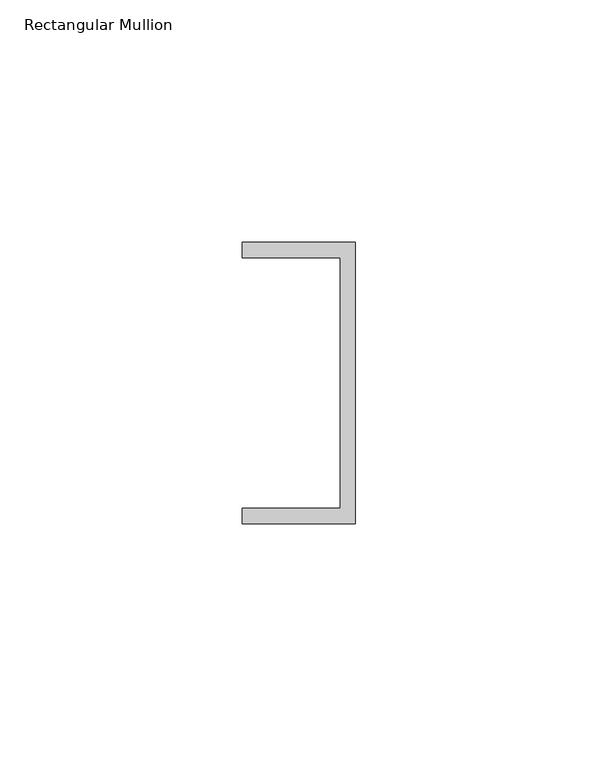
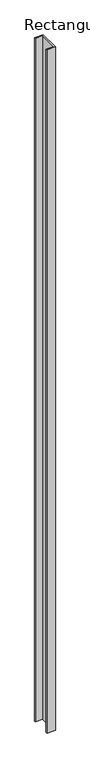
"""IFC4 building model written with IfcOpenShell, lengths in millimetres: member geometry, Rectangular Mullion : Frame-Teknion-Altos-Ceiling_Channel."""

from ifc_helpers import new_model, si_unit, frame, origin, place, context, project, spatial, polyline, outline, extrude, source, transform, mapped, element, save


def rectangular_mullion_5de60da2(model_context):
    return source(origin(), model_context, "Body", "SweptSolid", [
        extrude(outline(polyline([(0.0, 29.0214844), (0.0, -29.0214844), (-23.3164063, -29.0214844), (-23.3164063, -25.8464844), (-3.175, -25.8464844), (-3.175, 25.8464844), (-23.3164063, 25.8464844), (-23.3164063, 29.0214844), (0.0, 29.0214844)])), frame((0.0, 0.0, -1990.0304688), z_axis=(0.0, 0.0, 1.0), x_axis=(1.0, 0.0, 0.0)), (0.0, 0.0, 1.0), 1990.0304688),
    ])


if __name__ == "__main__":
    model = new_model("IFC4")
    model_context = context("Model", 3, world=origin())
    ifc_project = project(units=[si_unit("LENGTHUNIT", "METRE", prefix="MILLI")], contexts=[model_context])
    site = spatial("IfcSite", under=ifc_project)
    building = spatial("IfcBuilding", under=site)
    placement = place(None, origin())
    rectangular_mullion_shape = rectangular_mullion_5de60da2(model_context)
    element("IfcMember", 1, ObjectType="Rectangular Mullion : Frame-Teknion-Altos-Ceiling_Channel", at=placement, inside=building, context=model_context, shape_type="MappedRepresentation", body=[
        mapped(rectangular_mullion_shape, transform((0.0, 0.0, 0.0), x_axis=(1.0, 0.0, 0.0), y_axis=(0.0, 1.0, 0.0), z_axis=(0.0, 0.0, 1.0))),
    ])
    save(model, "model.ifc")
